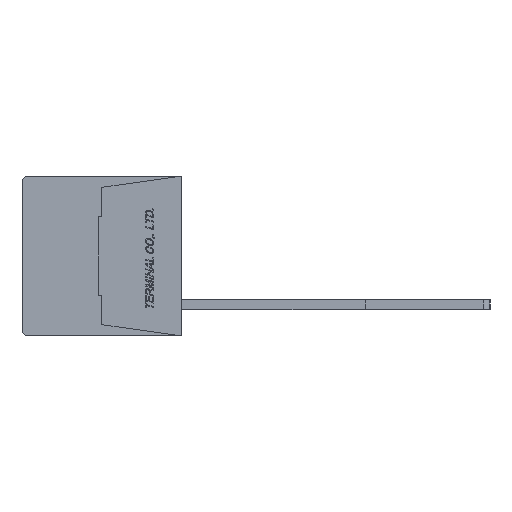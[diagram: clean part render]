
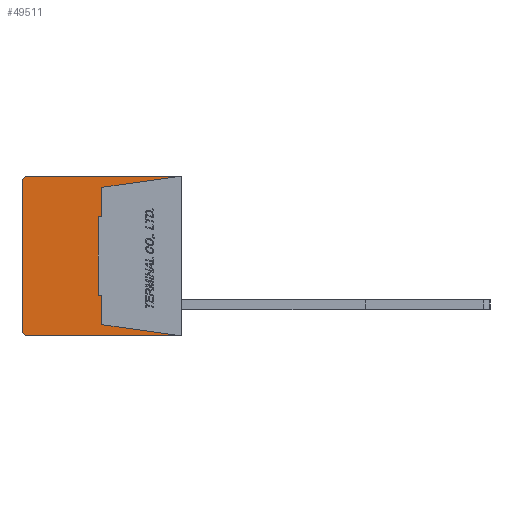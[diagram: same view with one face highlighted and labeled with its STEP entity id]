
A CAD part, left-side view. The second image highlights one B-rep face of the part: STEP entity #49511.
In plain terms, the highlighted planar face has unit normal (-1, 0, 0).
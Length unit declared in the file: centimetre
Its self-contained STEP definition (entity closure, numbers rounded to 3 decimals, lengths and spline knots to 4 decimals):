
#2533=CIRCLE('',#84986,0.05);
#2534=CIRCLE('',#84989,0.05);
#4558=VERTEX_POINT('',#69396);
#4559=VERTEX_POINT('',#69398);
#4560=VERTEX_POINT('',#69402);
#4561=VERTEX_POINT('',#69406);
#4562=VERTEX_POINT('',#69410);
#4563=VERTEX_POINT('',#69414);
#4564=VERTEX_POINT('',#69417);
#4565=VERTEX_POINT('',#69419);
#4566=VERTEX_POINT('',#69421);
#4567=VERTEX_POINT('',#69423);
#4568=VERTEX_POINT('',#69425);
#4569=VERTEX_POINT('',#69427);
#9708=VECTOR('',#57567,1.);
#9712=VECTOR('',#57576,1.);
#9715=VECTOR('',#57584,1.);
#9716=VECTOR('',#57585,1.);
#9717=VECTOR('',#57586,1.);
#9718=VECTOR('',#57587,1.);
#9719=VECTOR('',#57588,1.);
#9720=VECTOR('',#57589,1.);
#9721=VECTOR('',#57590,1.);
#9722=VECTOR('',#57591,1.);
#15511=LINE('',#69397,#9708);
#15515=LINE('',#69407,#9712);
#15518=LINE('',#69415,#9715);
#15519=LINE('',#69416,#9716);
#15520=LINE('',#69418,#9717);
#15521=LINE('',#69420,#9718);
#15522=LINE('',#69422,#9719);
#15523=LINE('',#69424,#9720);
#15524=LINE('',#69426,#9721);
#15525=LINE('',#69428,#9722);
#22077=EDGE_CURVE('',#4559,#4558,#15511,.T.);
#22080=EDGE_CURVE('',#4560,#4558,#2533,.T.);
#22082=EDGE_CURVE('',#4560,#4561,#15515,.T.);
#22084=EDGE_CURVE('',#4562,#4561,#2534,.T.);
#22086=EDGE_CURVE('',#4562,#4563,#15518,.T.);
#22087=EDGE_CURVE('',#4564,#4559,#15519,.T.);
#22088=EDGE_CURVE('',#4563,#4565,#15520,.T.);
#22089=EDGE_CURVE('',#4565,#4566,#15521,.T.);
#22090=EDGE_CURVE('',#4566,#4567,#15522,.T.);
#22091=EDGE_CURVE('',#4567,#4568,#15523,.T.);
#22092=EDGE_CURVE('',#4568,#4569,#15524,.T.);
#22093=EDGE_CURVE('',#4569,#4564,#15525,.T.);
#32159=ORIENTED_EDGE('',*,*,#22087,.T.);
#32160=ORIENTED_EDGE('',*,*,#22077,.T.);
#32161=ORIENTED_EDGE('',*,*,#22080,.F.);
#32162=ORIENTED_EDGE('',*,*,#22082,.T.);
#32163=ORIENTED_EDGE('',*,*,#22084,.F.);
#32164=ORIENTED_EDGE('',*,*,#22086,.T.);
#32165=ORIENTED_EDGE('',*,*,#22088,.T.);
#32166=ORIENTED_EDGE('',*,*,#22089,.T.);
#32167=ORIENTED_EDGE('',*,*,#22090,.T.);
#32168=ORIENTED_EDGE('',*,*,#22091,.T.);
#32169=ORIENTED_EDGE('',*,*,#22092,.T.);
#32170=ORIENTED_EDGE('',*,*,#22093,.T.);
#43167=EDGE_LOOP('',(#32159,#32160,#32161,#32162,#32163,#32164,#32165,#32166,
#32167,#32168,#32169,#32170));
#46432=FACE_BOUND('',#43167,.T.);
#49511=ADVANCED_FACE('',(#46432),#52166,.F.);
#52166=PLANE('',#84983);
#57453=DIRECTION('',(1.,0.,0.));
#57567=DIRECTION('',(0.,1.,0.));
#57572=DIRECTION('',(1.,0.,0.));
#57573=DIRECTION('',(0.,0.,-0.05));
#57576=DIRECTION('',(0.,0.,-1.));
#57580=DIRECTION('',(1.,0.,0.));
#57581=DIRECTION('',(0.,0.,-0.05));
#57584=DIRECTION('',(0.,-1.,0.));
#57585=DIRECTION('',(0.,-0.99,0.139));
#57586=DIRECTION('',(0.,0.99,0.139));
#57587=DIRECTION('',(0.,0.,1.));
#57588=DIRECTION('',(0.,1.,0.));
#57589=DIRECTION('',(0.,0.,1.));
#57590=DIRECTION('',(0.,-1.,0.));
#57591=DIRECTION('',(0.,0.,1.));
#68963=CARTESIAN_POINT('',(-0.889,0.6345,0.));
#69396=CARTESIAN_POINT('',(-0.889,1.23,0.64));
#69397=CARTESIAN_POINT('',(-0.889,0.,0.64));
#69398=CARTESIAN_POINT('',(-0.889,0.,0.64));
#69402=CARTESIAN_POINT('',(-0.889,1.28,0.59));
#69403=CARTESIAN_POINT('',(-0.889,1.23,0.59));
#69406=CARTESIAN_POINT('',(-0.889,1.28,-0.59));
#69407=CARTESIAN_POINT('',(-0.889,1.28,0.59));
#69410=CARTESIAN_POINT('',(-0.889,1.23,-0.64));
#69411=CARTESIAN_POINT('',(-0.889,1.23,-0.59));
#69414=CARTESIAN_POINT('',(-0.889,0.,-0.64));
#69415=CARTESIAN_POINT('',(-0.889,1.23,-0.64));
#69416=CARTESIAN_POINT('',(-0.889,0.64,0.55));
#69417=CARTESIAN_POINT('',(-0.889,0.64,0.55));
#69418=CARTESIAN_POINT('',(-0.889,0.,-0.64));
#69419=CARTESIAN_POINT('',(-0.889,0.64,-0.55));
#69420=CARTESIAN_POINT('',(-0.889,0.64,-0.55));
#69421=CARTESIAN_POINT('',(-0.889,0.64,-0.315));
#69422=CARTESIAN_POINT('',(-0.889,0.64,-0.315));
#69423=CARTESIAN_POINT('',(-0.889,0.67,-0.315));
#69424=CARTESIAN_POINT('',(-0.889,0.67,-0.315));
#69425=CARTESIAN_POINT('',(-0.889,0.67,0.315));
#69426=CARTESIAN_POINT('',(-0.889,0.67,0.315));
#69427=CARTESIAN_POINT('',(-0.889,0.64,0.315));
#69428=CARTESIAN_POINT('',(-0.889,0.64,0.315));
#84983=AXIS2_PLACEMENT_3D('',#68963,#57453,$);
#84986=AXIS2_PLACEMENT_3D('',#69403,#57572,#57573);
#84989=AXIS2_PLACEMENT_3D('',#69411,#57580,#57581);
